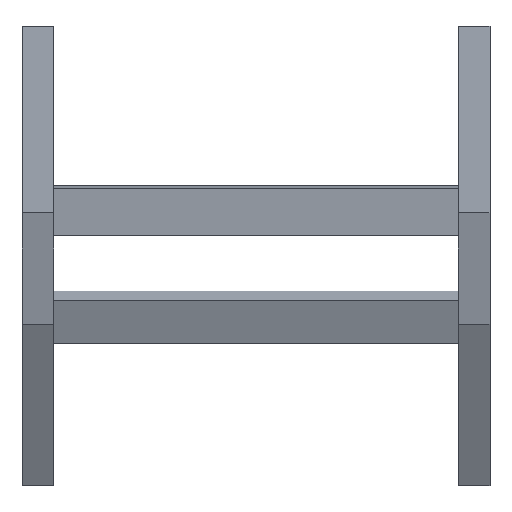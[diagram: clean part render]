
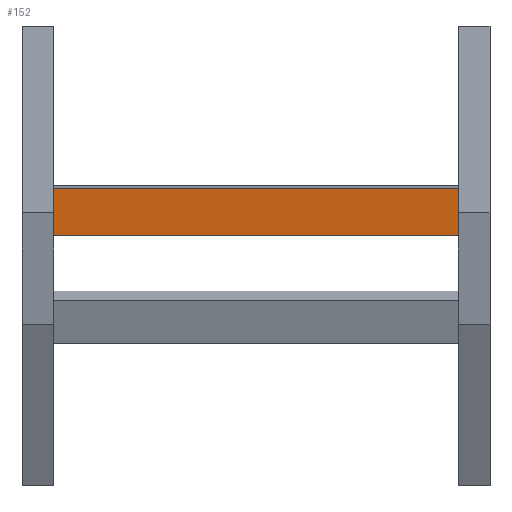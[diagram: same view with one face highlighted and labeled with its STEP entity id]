
A CAD part, front view. The second image highlights one B-rep face of the part: STEP entity #152.
In plain terms, the highlighted planar face has unit normal (0, -0.991, -0.131) as drawn and (0, -1, 0) by its records, which use the part's own axes.
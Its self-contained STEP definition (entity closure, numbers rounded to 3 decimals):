
#7 = VERTEX_POINT ( 'NONE', #1025 ) ;
#9 = CARTESIAN_POINT ( 'NONE',  ( 198., 0., 20.25 ) ) ;
#60 = CARTESIAN_POINT ( 'NONE',  ( 198., 0., 20.25 ) ) ;
#114 = ORIENTED_EDGE ( 'NONE', *, *, #1331, .T. ) ;
#133 = PLANE ( 'NONE',  #1224 ) ;
#152 = ADVANCED_FACE ( 'NONE', ( #1158 ), #133, .F. ) ;
#199 = VERTEX_POINT ( 'NONE', #533 ) ;
#209 = ORIENTED_EDGE ( 'NONE', *, *, #1031, .F. ) ;
#251 = VERTEX_POINT ( 'NONE', #513 ) ;
#270 = ORIENTED_EDGE ( 'NONE', *, *, #1481, .T. ) ;
#307 = CARTESIAN_POINT ( 'NONE',  ( 198., 0., -20.25 ) ) ;
#411 = CARTESIAN_POINT ( 'NONE',  ( -198., 0., 20.25 ) ) ;
#457 = EDGE_CURVE ( 'NONE', #7, #589, #1046, .T. ) ;
#510 = LINE ( 'NONE', #307, #1448 ) ;
#513 = CARTESIAN_POINT ( 'NONE',  ( -198., 0., -20.25 ) ) ;
#521 = LINE ( 'NONE', #411, #740 ) ;
#533 = CARTESIAN_POINT ( 'NONE',  ( -198., 0., 20.25 ) ) ;
#580 = DIRECTION ( 'NONE',  ( 0., 1., 0. ) ) ;
#589 = VERTEX_POINT ( 'NONE', #951 ) ;
#685 = LINE ( 'NONE', #1289, #786 ) ;
#724 = DIRECTION ( 'NONE',  ( -1., 0., 0. ) ) ;
#740 = VECTOR ( 'NONE', #1466, 1000. ) ;
#786 = VECTOR ( 'NONE', #1419, 1000. ) ;
#951 = CARTESIAN_POINT ( 'NONE',  ( 198., 0., -20.25 ) ) ;
#1025 = CARTESIAN_POINT ( 'NONE',  ( 198., 0., 20.25 ) ) ;
#1029 = DIRECTION ( 'NONE',  ( 0., 0., -1. ) ) ;
#1031 = EDGE_CURVE ( 'NONE', #589, #251, #510, .T. ) ;
#1046 = LINE ( 'NONE', #9, #1176 ) ;
#1050 = DIRECTION ( 'NONE',  ( 0., 0., 1. ) ) ;
#1111 = EDGE_LOOP ( 'NONE', ( #270, #209, #1464, #114 ) ) ;
#1158 = FACE_OUTER_BOUND ( 'NONE', #1111, .T. ) ;
#1176 = VECTOR ( 'NONE', #1029, 1000. ) ;
#1224 = AXIS2_PLACEMENT_3D ( 'NONE', #60, #580, #1050 ) ;
#1289 = CARTESIAN_POINT ( 'NONE',  ( 198., 0., 20.25 ) ) ;
#1331 = EDGE_CURVE ( 'NONE', #7, #199, #685, .T. ) ;
#1419 = DIRECTION ( 'NONE',  ( -1., 0., 0. ) ) ;
#1448 = VECTOR ( 'NONE', #724, 1000. ) ;
#1464 = ORIENTED_EDGE ( 'NONE', *, *, #457, .F. ) ;
#1466 = DIRECTION ( 'NONE',  ( 0., 0., -1. ) ) ;
#1481 = EDGE_CURVE ( 'NONE', #199, #251, #521, .T. ) ;
